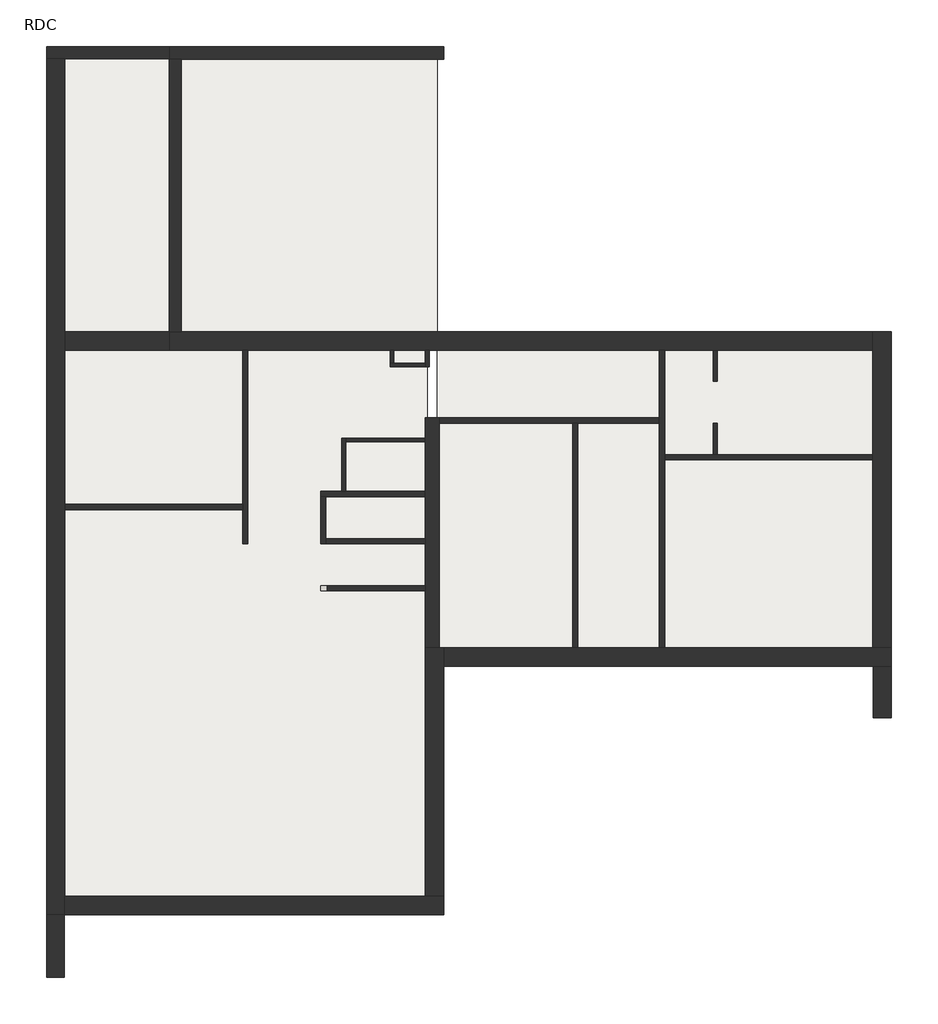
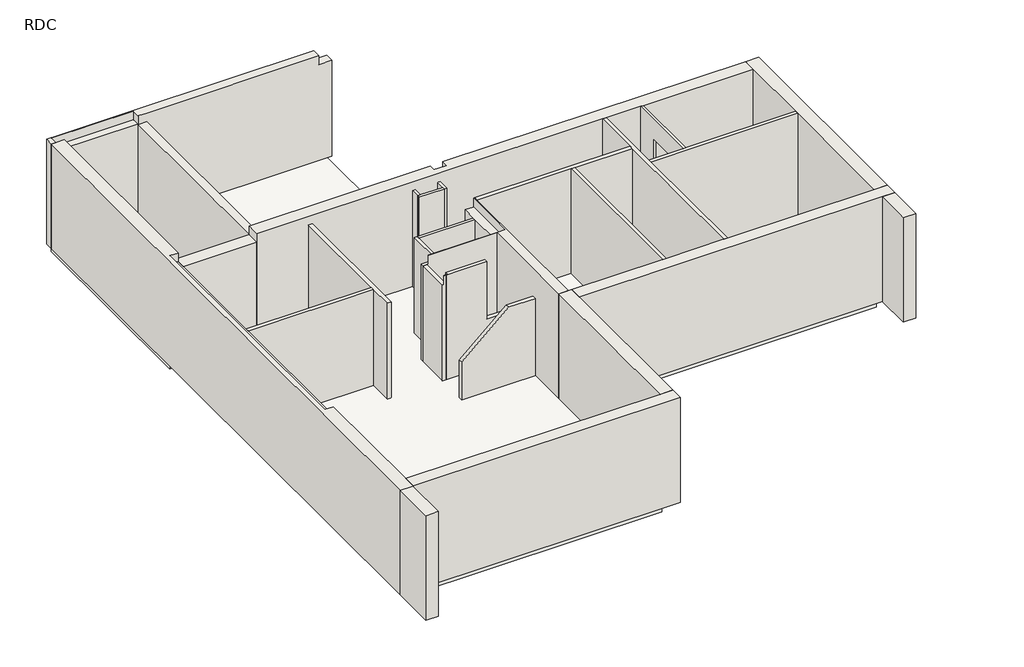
# One storey, incomplete: 29 walls, 2 slabs.
"""IFC4 building model written with IfcOpenShell, lengths in millimetres."""

from ifc_helpers import new_model, si_unit, frame, origin, origin_with_axes, place, context, project, spatial, polyline, outline, extrude, faceted_brep, element, save

model = new_model("IFC4")

# Units and contexts
model_context = context("Model", 3, world=origin())
ifc_project = project(units=[si_unit("LENGTHUNIT", "METRE", prefix="MILLI")], contexts=[model_context])

# Site, building, storey
site = spatial("IfcSite", under=ifc_project)
building = spatial("IfcBuilding", under=site)
storey = spatial("IfcBuildingStorey", under=building, Name="RDC", Elevation=0.0)

# Slabs
placement = place(None, origin())
element("IfcSlab", 1, ObjectType="Dalle en béton + Isolant", at=placement, inside=storey, context=model_context, shape_type="SweptSolid", body=[
    extrude(outline(polyline([(7863.302658, 2084.9574199), (7863.302658, -3665.0425801), (-486.697342, -3665.0425801), (-486.697342, 2084.9574199), (7863.302658, 2084.9574199)])), frame((0.0, 0.0, -360.0), z_axis=(0.0, 0.0, 1.0), x_axis=(1.0, 0.0, 0.0)), (0.0, 0.0, 1.0), 360.0),
    extrude(outline(polyline([(-7636.697342, -8415.0425801), (-7636.697342, 2084.9574199), (-686.697342, 2084.9574199), (-686.697342, -8415.0425801), (-7636.697342, -8415.0425801)])), frame((0.0, 0.0, -360.0), z_axis=(0.0, 0.0, 1.0), x_axis=(1.0, 0.0, 0.0)), (0.0, 0.0, 1.0), 360.0),
])
element("IfcSlab", 2, ObjectType="Dalle en béton", at=placement, inside=storey, context=model_context, shape_type="Brep", body=[
    faceted_brep([(-486.697342, 7834.9574199, -250.0), (-486.697342, 2284.9574199, -250.0), (-686.697342, 2284.9574199, -250.0), (-7636.697342, 2284.9574199, -250.0), (-7836.697342, 2284.9574199, -250.0), (-7836.697342, 7834.9574199, -250.0), (-7636.697342, 7834.9574199, -250.0), (-686.697342, 7834.9574199, -250.0), (-486.697342, 7834.9574199, 0.0), (-7836.697342, 7834.9574199, 0.0), (-7836.697342, 2284.9574199, 0.0), (-7636.697342, 2284.9574199, 0.0), (-686.697342, 2284.9574199, 0.0), (-486.697342, 2284.9574199, 0.0)], [[[0, 1, 2, 3, 4, 5, 6, 7]], [[8, 9, 10, 11, 12, 13]], [[1, 0, 8, 13]], [[4, 3, 2, 1, 13, 12, 11, 10]], [[5, 4, 10, 9]], [[0, 7, 6, 5, 9, 8]]]),
])

# Walls
element("IfcWall", 3, ObjectType="Ext. Bardage Métal + Isolant + Béton + Finition", at=placement, inside=storey, context=model_context, shape_type="Brep", body=[
    faceted_brep([(-7956.697342, 7624.9574199, 0.0), (-7956.697342, -8735.0425801, 0.0), (-7956.697342, -8735.0425801, 3000.0), (-7956.697342, 7624.9574199, 3000.0), (-7606.697342, -8735.0425801, 0.0), (-7606.697342, -8385.0425801, 0.0), (-7606.697342, -995.1038978, 0.0), (-7606.697342, -895.1038978, 0.0), (-7606.697342, 2054.9574199, 0.0), (-7606.697342, 2404.9574199, 0.0), (-7606.697342, 7624.9574199, 0.0), (-7606.697342, 7624.9574199, 3000.0), (-7606.697342, 2284.9574199, 3000.0), (-7606.697342, 2284.9574199, 2750.0), (-7606.697342, 2054.9574199, 2750.0), (-7606.697342, -895.1038978, 2750.0), (-7606.697342, -995.1038978, 2750.0), (-7606.697342, -4992.0425801, 2750.0), (-7606.697342, -4992.0425801, 3000.0), (-7606.697342, -8385.0425801, 3000.0), (-7606.697342, -8735.0425801, 3000.0), (-7616.697342, -8735.0425801, 0.0), (-7616.697342, -8735.0425801, 3000.0), (-7836.697342, -4992.0425801, 3000.0), (-7836.697342, 2284.9574199, 3000.0), (-7836.697342, 7624.9574199, 3000.0), (-7836.697342, 2284.9574199, 2750.0), (-7836.697342, -4992.0425801, 2750.0)], [[[0, 1, 2, 3]], [[4, 5, 6, 7, 8, 9, 10, 11, 12, 13, 14, 15, 16, 17, 18, 19, 20]], [[1, 0, 10, 9, 8, 7, 6, 5, 4, 21]], [[3, 2, 22, 20, 19, 18, 23, 24, 12, 11, 25]], [[26, 27, 17, 16, 15, 14, 13]], [[27, 26, 24, 23]], [[27, 23, 18, 17]], [[24, 26, 13, 12]], [[0, 3, 25, 11, 10]], [[2, 1, 21, 4, 20, 22]]]),
])
element("IfcWall", 4, ObjectType="Ext. Bardage Bois + Isolant + Béton + Finition", at=placement, inside=storey, context=model_context, shape_type="Brep", body=[
    faceted_brep([(-7606.697342, -8735.0425801, 0.0), (-366.697342, -8735.0425801, 0.0), (-366.697342, -8735.0425801, 3000.0), (-7606.697342, -8735.0425801, 3000.0), (-7606.697342, -8385.0425801, 0.0), (-7606.697342, -8385.0425801, 3000.0), (-716.697342, -8385.0425801, 3000.0), (-366.697342, -8385.0425801, 3000.0), (-366.697342, -8385.0425801, 0.0), (-716.697342, -8385.0425801, 0.0)], [[[0, 1, 2, 3]], [[4, 5, 6, 7, 8, 9]], [[1, 0, 4, 9, 8]], [[3, 2, 7, 6, 5]], [[2, 1, 8, 7]], [[0, 3, 5, 4]]]),
])
element("IfcWall", 5, ObjectType="Ext. Bardage Bois + Isolant + Béton + Finition", at=placement, inside=storey, context=model_context, shape_type="Brep", body=[
    faceted_brep([(-366.697342, -8385.0425801, 0.0), (-366.697342, -3985.0425801, 0.0), (-366.697342, -3635.0425801, 0.0), (-366.697342, -3635.0425801, 3000.0), (-366.697342, -3985.0425801, 3000.0), (-366.697342, -8385.0425801, 3000.0), (-716.697342, -8385.0425801, 0.0), (-716.697342, -8385.0425801, 3000.0), (-716.697342, -3635.0425801, 3000.0), (-716.697342, -3635.0425801, 0.0), (-456.697342, -3635.0425801, 0.0), (-456.697342, -3635.0425801, 3000.0)], [[[0, 1, 2, 3, 4, 5]], [[6, 7, 8, 9]], [[2, 1, 0, 6, 9, 10]], [[5, 4, 3, 11, 8, 7]], [[0, 5, 7, 6]], [[3, 2, 10, 9, 8, 11]]]),
])
element("IfcWall", 6, ObjectType="Ext. Bardage Métal + Isolant + Béton + Finition", at=placement, inside=storey, context=model_context, shape_type="Brep", body=[
    faceted_brep([(-366.697342, -3985.0425801, 0.0), (7843.302658, -3985.0425801, 0.0), (8183.302658, -3985.0425801, 0.0), (8183.302658, -3985.0425801, 3000.0), (7843.302658, -3985.0425801, 3000.0), (-366.697342, -3985.0425801, 3000.0), (-366.697342, -3635.0425801, 0.0), (-366.697342, -3635.0425801, 3000.0), (2094.302658, -3635.0425801, 3000.0), (2194.302658, -3635.0425801, 3000.0), (3754.302658, -3635.0425801, 3000.0), (3854.302658, -3635.0425801, 3000.0), (7833.302658, -3635.0425801, 3000.0), (8183.302658, -3635.0425801, 3000.0), (8183.302658, -3635.0425801, 0.0), (7833.302658, -3635.0425801, 0.0), (3854.302658, -3635.0425801, 0.0), (3754.302658, -3635.0425801, 0.0), (2194.302658, -3635.0425801, 0.0), (2094.302658, -3635.0425801, 0.0)], [[[0, 1, 2, 3, 4, 5]], [[6, 7, 8, 9, 10, 11, 12, 13, 14, 15, 16, 17, 18, 19]], [[2, 1, 0, 6, 19, 18, 17, 16, 15, 14]], [[5, 4, 3, 13, 12, 11, 10, 9, 8, 7]], [[0, 5, 7, 6]], [[3, 2, 14, 13]]]),
])
element("IfcWall", 7, ObjectType="Ext. Bardage Bois + Isolant + Béton + Finition", at=placement, inside=storey, context=model_context, shape_type="Brep", body=[
    faceted_brep([(8183.302658, -3635.0425801, 0.0), (8183.302658, 2404.9574199, 0.0), (8183.302658, 2404.9574199, 3000.0), (8183.302658, -3635.0425801, 3000.0), (7833.302658, -3635.0425801, 0.0), (7833.302658, -3635.0425801, 3000.0), (7833.302658, -40.1038978, 3000.0), (7833.302658, 59.8961022, 3000.0), (7833.302658, 2054.9574199, 3000.0), (7833.302658, 2404.9574199, 3000.0), (7833.302658, 2404.9574199, 0.0), (7833.302658, 2054.9574199, 0.0), (7833.302658, 59.8961022, 0.0), (7833.302658, -40.1038978, 0.0)], [[[0, 1, 2, 3]], [[4, 5, 6, 7, 8, 9, 10, 11, 12, 13]], [[1, 0, 4, 13, 12, 11, 10]], [[3, 2, 9, 8, 7, 6, 5]], [[0, 3, 5, 4]], [[2, 1, 10, 9]]]),
])
element("IfcWall", 8, ObjectType="Ext. Bardage Bois + Isolant + Béton + Finition", at=placement, inside=storey, context=model_context, shape_type="Brep", body=[
    faceted_brep([(7833.302658, 2404.9574199, 0.0), (-5386.5193778, 2404.9574199, 0.0), (-5616.5193778, 2404.9574199, 0.0), (-5616.5193778, 2404.9574199, 2750.0), (-5616.5193778, 2404.9574199, 3000.0), (-716.697342, 2404.9574199, 3000.0), (-716.697342, 2404.9574199, 2750.0), (-366.697342, 2404.9574199, 2750.0), (-366.697342, 2404.9574199, 3000.0), (7833.302658, 2404.9574199, 3000.0), (-5616.5193778, 2054.9574199, 0.0), (-4211.697342, 2054.9574199, 0.0), (-4111.697342, 2054.9574199, 0.0), (-1392.697342, 2054.9574199, 0.0), (-1320.697342, 2054.9574199, 0.0), (-716.697342, 2054.9574199, 0.0), (-644.697342, 2054.9574199, 0.0), (3754.302658, 2054.9574199, 0.0), (3854.302658, 2054.9574199, 0.0), (4784.302658, 2054.9574199, 0.0), (4856.302658, 2054.9574199, 0.0), (7833.302658, 2054.9574199, 0.0), (7833.302658, 2054.9574199, 3000.0), (4856.302658, 2054.9574199, 3000.0), (4784.302658, 2054.9574199, 3000.0), (3854.302658, 2054.9574199, 3000.0), (3754.302658, 2054.9574199, 3000.0), (-5616.5193778, 2054.9574199, 3000.0), (-5616.5193778, 2054.9574199, 2750.0), (-366.697342, 2229.9574199, 3000.0), (-716.697342, 2229.9574199, 3000.0), (-366.697342, 2229.9574199, 2750.0), (-716.697342, 2229.9574199, 2750.0), (-716.697342, 2284.9574199, 2750.0), (-486.697342, 2229.9574199, 2750.0)], [[[0, 1, 2, 3, 4, 5, 6, 7, 8, 9]], [[10, 11, 12, 13, 14, 15, 16, 17, 18, 19, 20, 21, 22, 23, 24, 25, 26, 27, 28]], [[2, 1, 0, 21, 20, 19, 18, 17, 16, 15, 14, 13, 12, 11, 10]], [[27, 26, 25, 24, 23, 22, 9, 8, 29, 30, 5, 4]], [[0, 9, 22, 21]], [[4, 3, 2, 10, 28, 27]], [[31, 29, 8, 7]], [[32, 33, 6, 5, 30]], [[32, 34, 31, 7, 6, 33]], [[31, 34, 32, 30, 29]]]),
])
element("IfcWall", 9, ObjectType="Int. Plâtre 100 mm", at=placement, inside=storey, context=model_context, shape_type="SweptSolid", body=[
    extrude(outline(polyline([(-4211.697342, -995.1038978), (-7606.697342, -995.1038978), (-7606.697342, -895.1038978), (-4211.697342, -895.1038978), (-4211.697342, -995.1038978)])), origin_with_axes(), (0.0, 0.0, 1.0), 2750.0),
])
element("IfcWall", 10, ObjectType="Int. Plâtre 100 mm", at=placement, inside=storey, context=model_context, shape_type="Brep", body=[
    faceted_brep([(-4111.697342, -1645.1038978, 0.0), (-4111.697342, 2054.9574199, 0.0), (-4111.697342, 2054.9574199, 2750.0), (-4111.697342, -1645.1038978, 2750.0), (-4211.697342, -1645.1038978, 0.0), (-4211.697342, -1645.1038978, 2750.0), (-4211.697342, -995.1038978, 2750.0), (-4211.697342, -895.1038978, 2750.0), (-4211.697342, 2054.9574199, 2750.0), (-4211.697342, 2054.9574199, 0.0), (-4211.697342, -895.1038978, 0.0), (-4211.697342, -995.1038978, 0.0)], [[[0, 1, 2, 3]], [[4, 5, 6, 7, 8, 9, 10, 11]], [[1, 0, 4, 11, 10, 9]], [[0, 3, 5, 4]], [[2, 1, 9, 8]], [[3, 2, 8, 7, 6, 5]]]),
])
element("IfcWall", 11, ObjectType="Int. Plâtre 100 mm", at=placement, inside=storey, context=model_context, shape_type="Brep", body=[
    faceted_brep([(-716.697342, -645.1038978, 0.0), (-2241.697342, -645.1038978, 0.0), (-2313.697342, -645.1038978, 0.0), (-2719.1256089, -645.1038978, 0.0), (-2719.1256089, -645.1038978, 2750.0), (-2313.697342, -645.1038978, 2750.0), (-2241.697342, -645.1038978, 2750.0), (-716.697342, -645.1038978, 2750.0), (-2719.1256089, -745.1038978, 0.0), (-2619.1256089, -745.1038978, 0.0), (-716.697342, -745.1038978, 0.0), (-716.697342, -745.1038978, 3000.0), (-2577.5004576, -745.1038978, 3000.0), (-2577.5004576, -745.1038978, 2750.0), (-2619.1256089, -745.1038978, 2750.0), (-2719.1256089, -745.1038978, 2750.0), (-716.697342, -732.1038978, 3000.0), (-2577.5004576, -732.1038978, 3000.0), (-716.697342, -732.1038978, 2750.0), (-2577.5004576, -732.1038978, 2750.0)], [[[0, 1, 2, 3, 4, 5, 6, 7]], [[8, 9, 10, 11, 12, 13, 14, 15]], [[3, 2, 1, 0, 10, 9, 8]], [[12, 11, 16, 17]], [[3, 8, 15, 4]], [[11, 10, 0, 7, 18, 16]], [[13, 19, 18, 7, 6, 5, 4, 15, 14]], [[19, 17, 16, 18]], [[17, 19, 13, 12]]]),
])
element("IfcWall", 12, ObjectType="Int. Plâtre 100 mm", at=placement, inside=storey, context=model_context, shape_type="Brep", body=[
    faceted_brep([(-2719.1256089, -745.1038978, 0.0), (-2719.1256089, -1645.1038978, 0.0), (-2719.1256089, -1645.1038978, 2750.0), (-2719.1256089, -745.1038978, 2750.0), (-2619.1256089, -1645.1038978, 0.0), (-2619.1256089, -1545.1038978, 0.0), (-2619.1256089, -745.1038978, 0.0), (-2619.1256089, -745.1038978, 2750.0), (-2619.1256089, -1545.1038978, 2750.0), (-2619.1256089, -1632.1038978, 2750.0), (-2619.1256089, -1632.1038978, 3000.0), (-2619.1256089, -1645.1038978, 3000.0), (-2682.3224934, -1632.1038978, 3000.0), (-2682.3224934, -1645.1038978, 3000.0), (-2682.3224934, -1645.1038978, 2750.0), (-2682.3224934, -1632.1038978, 2750.0)], [[[0, 1, 2, 3]], [[4, 5, 6, 7, 8, 9, 10, 11]], [[1, 0, 6, 5, 4]], [[11, 10, 12, 13]], [[6, 0, 3, 7]], [[14, 15, 9, 8, 7, 3, 2]], [[1, 4, 11, 13, 14, 2]], [[15, 12, 10, 9]], [[12, 15, 14, 13]]]),
])
element("IfcWall", 13, ObjectType="Int. Plâtre 100 mm", at=placement, inside=storey, context=model_context, shape_type="Brep", body=[
    faceted_brep([(-2619.1256089, -1645.1038978, 0.0), (-716.697342, -1645.1038978, 0.0), (-716.697342, -1645.1038978, 1360.0), (-1515.8753062, -1645.1038978, 1360.0), (-1515.8753062, -1645.1038978, 3000.0), (-2619.1256089, -1645.1038978, 3000.0), (-716.697342, -1545.1038978, 0.0), (-2619.1256089, -1545.1038978, 0.0), (-2619.1256089, -1545.1038978, 2750.0), (-2577.5004576, -1545.1038978, 2750.0), (-2577.5004576, -1545.1038978, 3000.0), (-1515.8753062, -1545.1038978, 3000.0), (-1515.8753062, -1545.1038978, 1360.0), (-716.697342, -1545.1038978, 1360.0), (-2577.5004576, -1632.1038978, 3000.0), (-2619.1256089, -1632.1038978, 3000.0), (-2619.1256089, -1632.1038978, 2750.0), (-2577.5004576, -1632.1038978, 2750.0)], [[[0, 1, 2, 3, 4, 5]], [[6, 7, 8, 9, 10, 11, 12, 13]], [[2, 1, 6, 13]], [[1, 0, 7, 6]], [[5, 4, 11, 10, 14, 15]], [[3, 2, 13, 12]], [[4, 3, 12, 11]], [[7, 0, 5, 15, 16, 8]], [[16, 17, 9, 8]], [[17, 14, 10, 9]], [[14, 17, 16, 15]]]),
])
element("IfcWall", 14, ObjectType="Int. Plâtre 100 mm", at=placement, inside=storey, context=model_context, shape_type="Brep", body=[
    faceted_brep([(-456.697342, 657.8961022, 0.0), (2094.302658, 657.8961022, 0.0), (2194.302658, 657.8961022, 0.0), (3754.302658, 657.8961022, 0.0), (3754.302658, 657.8961022, 3000.0), (2194.302658, 657.8961022, 3000.0), (2094.302658, 657.8961022, 3000.0), (-456.697342, 657.8961022, 3000.0), (-456.697342, 757.8961022, 0.0), (-456.697342, 757.8961022, 3000.0), (3754.302658, 757.8961022, 3000.0), (3754.302658, 757.8961022, 0.0)], [[[0, 1, 2, 3, 4, 5, 6, 7]], [[8, 9, 10, 11]], [[3, 2, 1, 0, 8, 11]], [[7, 6, 5, 4, 10, 9]], [[4, 3, 11, 10]], [[0, 7, 9, 8]]]),
])
element("IfcWall", 15, ObjectType="Int. Plâtre 100 mm", at=placement, inside=storey, context=model_context, shape_type="Brep", body=[
    faceted_brep([(3754.302658, 2054.9574199, 0.0), (3754.302658, 757.8961022, 0.0), (3754.302658, 657.8961022, 0.0), (3754.302658, -3635.0425801, 0.0), (3754.302658, -3635.0425801, 35.0), (3754.302658, -3635.0425801, 2485.0), (3754.302658, -3635.0425801, 3000.0), (3754.302658, 657.8961022, 3000.0), (3754.302658, 757.8961022, 3000.0), (3754.302658, 2054.9574199, 3000.0), (3854.302658, 2054.9574199, 0.0), (3854.302658, 2054.9574199, 3000.0), (3854.302658, 59.8961022, 3000.0), (3854.302658, -40.1038978, 3000.0), (3854.302658, -3635.0425801, 3000.0), (3854.302658, -3635.0425801, 0.0), (3854.302658, -40.1038978, 0.0), (3854.302658, 59.8961022, 0.0)], [[[0, 1, 2, 3, 4, 5, 6, 7, 8, 9]], [[10, 11, 12, 13, 14, 15, 16, 17]], [[3, 2, 1, 0, 10, 17, 16, 15]], [[9, 8, 7, 6, 14, 13, 12, 11]], [[6, 5, 4, 3, 15, 14]], [[0, 9, 11, 10]]]),
])
element("IfcWall", 16, ObjectType="Int. Plâtre 100 mm", at=placement, inside=storey, context=model_context, shape_type="Brep", body=[
    faceted_brep([(7833.302658, 59.8961022, 0.0), (4856.302658, 59.8961022, 0.0), (4784.302658, 59.8961022, 0.0), (3854.302658, 59.8961022, 0.0), (3854.302658, 59.8961022, 3000.0), (4784.302658, 59.8961022, 3000.0), (4856.302658, 59.8961022, 3000.0), (7833.302658, 59.8961022, 3000.0), (7833.302658, -40.1038978, 0.0), (7833.302658, -40.1038978, 3000.0), (3854.302658, -40.1038978, 3000.0), (3854.302658, -40.1038978, 0.0)], [[[0, 1, 2, 3, 4, 5, 6, 7]], [[8, 9, 10, 11]], [[3, 2, 1, 0, 8, 11]], [[7, 6, 5, 4, 10, 9]], [[0, 7, 9, 8]], [[4, 3, 11, 10]]]),
])
element("IfcWall", 17, ObjectType="Int. Plâtre 100 mm", at=placement, inside=storey, context=model_context, shape_type="SweptSolid", body=[
    extrude(outline(polyline([(2094.302658, -3635.0425801), (2094.302658, 657.8961022), (2194.302658, 657.8961022), (2194.302658, -3635.0425801), (2094.302658, -3635.0425801)])), origin_with_axes(), (0.0, 0.0, 1.0), 3000.0),
])
element("IfcWall", 18, ObjectType="Int. Plâtre 70 mm", at=placement, inside=storey, context=model_context, shape_type="Brep", body=[
    faceted_brep([(-2241.697342, -645.1038978, 0.0), (-2241.697342, 299.8961022, 0.0), (-2241.697342, 371.8961022, 0.0), (-2241.697342, 371.8961022, 2750.0), (-2241.697342, 299.8961022, 2750.0), (-2241.697342, -645.1038978, 2750.0), (-2313.697342, -645.1038978, 0.0), (-2313.697342, -645.1038978, 2750.0), (-2313.697342, 371.8961022, 2750.0), (-2313.697342, 371.8961022, 0.0)], [[[0, 1, 2, 3, 4, 5]], [[6, 7, 8, 9]], [[2, 1, 0, 6, 9]], [[0, 5, 7, 6]], [[3, 2, 9, 8]], [[5, 4, 3, 8, 7]]]),
])
element("IfcWall", 19, ObjectType="Int. Plâtre 70 mm", at=placement, inside=storey, context=model_context, shape_type="SweptSolid", body=[
    extrude(outline(polyline([(-716.697342, 299.8961022), (-2241.697342, 299.8961022), (-2241.697342, 371.8961022), (-716.697342, 371.8961022), (-716.697342, 299.8961022)])), origin_with_axes(), (0.0, 0.0, 1.0), 2750.0),
])
element("IfcWall", 20, ObjectType="Int. Plâtre 70 mm", at=placement, inside=storey, context=model_context, shape_type="SweptSolid", body=[
    extrude(outline(polyline([(59.8961022, 0.0), (59.8961022, 3000.0), (2054.9574199, 3000.0), (2054.9574199, 0.0), (1463.4416882, 0.0), (1463.4416882, 2438.4), (659.8961022, 2438.4), (659.8961022, 0.0), (59.8961022, 0.0)])), frame((4784.302658, 0.0, 0.0), z_axis=(1.0, 0.0, 0.0), x_axis=(0.0, 1.0, 0.0)), (0.0, 0.0, 1.0), 72.0),
])
element("IfcWall", 21, ObjectType="Int. Béton + Finition", at=placement, inside=storey, context=model_context, shape_type="Brep", body=[
    faceted_brep([(-716.697342, 757.8961022, 0.0), (-716.697342, 371.8961022, 0.0), (-716.697342, 299.8961022, 0.0), (-716.697342, -645.1038978, 0.0), (-716.697342, -745.1038978, 0.0), (-716.697342, -1545.1038978, 0.0), (-716.697342, -1645.1038978, 0.0), (-716.697342, -2445.1038978, 0.0), (-716.697342, -2545.1038978, 0.0), (-716.697342, -3635.0425801, 0.0), (-716.697342, -3635.0425801, 3000.0), (-716.697342, -745.1038978, 3000.0), (-716.697342, -732.1038978, 3000.0), (-716.697342, -732.1038978, 2750.0), (-716.697342, -645.1038978, 2750.0), (-716.697342, 299.8961022, 2750.0), (-716.697342, 371.8961022, 2750.0), (-716.697342, 757.8961022, 2750.0), (-456.697342, -3635.0425801, 0.0), (-456.697342, 657.8961022, 0.0), (-456.697342, 757.8961022, 0.0), (-456.697342, 757.8961022, 3000.0), (-456.697342, 657.8961022, 3000.0), (-456.697342, -3635.0425801, 3000.0), (-486.697342, 757.8961022, 3000.0), (-486.697342, -732.1038978, 3000.0), (-486.697342, 757.8961022, 2750.0), (-486.697342, -732.1038978, 2750.0)], [[[0, 1, 2, 3, 4, 5, 6, 7, 8, 9, 10, 11, 12, 13, 14, 15, 16, 17]], [[18, 19, 20, 21, 22, 23]], [[9, 8, 7, 6, 5, 4, 3, 2, 1, 0, 20, 19, 18]], [[23, 22, 21, 24, 25, 12, 11, 10]], [[21, 20, 0, 17, 26, 24]], [[10, 9, 18, 23]], [[13, 27, 26, 17, 16, 15, 14]], [[27, 25, 24, 26]], [[25, 27, 13, 12]]]),
])
element("IfcWall", 22, ObjectType="Int. Plâtre 70 mm", at=placement, inside=storey, context=model_context, shape_type="Brep", body=[
    faceted_brep([(-716.697342, 2054.9574199, 0.0), (-716.697342, 1807.8961022, 0.0), (-716.697342, 1735.8961022, 0.0), (-716.697342, 1735.8961022, 2750.0), (-716.697342, 1807.8961022, 2750.0), (-716.697342, 2054.9574199, 2750.0), (-644.697342, 2054.9574199, 0.0), (-644.697342, 2054.9574199, 2750.0), (-644.697342, 1735.8961022, 2750.0), (-644.697342, 1735.8961022, 0.0)], [[[0, 1, 2, 3, 4, 5]], [[6, 7, 8, 9]], [[2, 1, 0, 6, 9]], [[0, 5, 7, 6]], [[3, 2, 9, 8]], [[5, 4, 3, 8, 7]]]),
])
element("IfcWall", 23, ObjectType="Int. Plâtre 70 mm", at=placement, inside=storey, context=model_context, shape_type="Brep", body=[
    faceted_brep([(-716.697342, 1807.8961022, 0.0), (-1320.697342, 1807.8961022, 0.0), (-1392.697342, 1807.8961022, 0.0), (-1392.697342, 1807.8961022, 2750.0), (-1320.697342, 1807.8961022, 2750.0), (-716.697342, 1807.8961022, 2750.0), (-716.697342, 1735.8961022, 0.0), (-716.697342, 1735.8961022, 2750.0), (-1392.697342, 1735.8961022, 2750.0), (-1392.697342, 1735.8961022, 0.0)], [[[0, 1, 2, 3, 4, 5]], [[6, 7, 8, 9]], [[2, 1, 0, 6, 9]], [[0, 5, 7, 6]], [[3, 2, 9, 8]], [[5, 4, 3, 8, 7]]]),
])
element("IfcWall", 24, ObjectType="Int. Plâtre 70 mm", at=placement, inside=storey, context=model_context, shape_type="SweptSolid", body=[
    extrude(outline(polyline([(-1320.697342, 2054.9574199), (-1320.697342, 1807.8961022), (-1392.697342, 1807.8961022), (-1392.697342, 2054.9574199), (-1320.697342, 2054.9574199)])), origin_with_axes(), (0.0, 0.0, 1.0), 2750.0),
])
element("IfcWall", 25, ObjectType="Ext. Bardage Métal + Béton + Finition", at=placement, inside=storey, context=model_context, shape_type="SweptSolid", body=[
    extrude(outline(polyline([(-5616.5193778, 2404.9574199), (-5616.5193778, 7614.9574199), (-5386.5193778, 7614.9574199), (-5386.5193778, 2404.9574199), (-5616.5193778, 2404.9574199)])), origin_with_axes(), (0.0, 0.0, 1.0), 2750.0),
])
element("IfcWall", 26, ObjectType="Ext. Bardage Bois +  Béton + Bardage Métal", at=placement, inside=storey, context=model_context, shape_type="Brep", body=[
    faceted_brep([(-5616.5193778, 7614.9574199, 0.0), (-5386.5193778, 7614.9574199, 0.0), (-366.697342, 7614.9574199, 0.0), (-366.697342, 7614.9574199, 2750.0), (-716.697342, 7614.9574199, 2750.0), (-716.697342, 7614.9574199, 3000.0), (-5386.5193778, 7614.9574199, 3000.0), (-5616.5193778, 7614.9574199, 3000.0), (-366.697342, 7854.9574199, 0.0), (-5616.5193778, 7854.9574199, 0.0), (-5616.5193778, 7854.9574199, 3000.0), (-716.697342, 7854.9574199, 3000.0), (-716.697342, 7854.9574199, 2750.0), (-366.697342, 7854.9574199, 2750.0), (-5616.5193778, 7624.9574199, 0.0), (-5616.5193778, 7624.9574199, 3000.0), (-716.697342, 7624.9574199, 3000.0)], [[[0, 1, 2, 3, 4, 5, 6, 7]], [[8, 9, 10, 11, 12, 13]], [[2, 1, 0, 14, 9, 8]], [[2, 8, 13, 3]], [[10, 15, 7, 6, 5, 16, 11]], [[0, 7, 15, 10, 9, 14]], [[4, 12, 11, 16, 5]], [[12, 4, 3, 13]]]),
])
element("IfcWall", 27, ObjectType="Int. Plâtre 100 mm", at=placement, inside=storey, context=model_context, shape_type="SweptSolid", body=[
    extrude(outline(polyline([(0.0, -716.697342), (2212.5, -716.697342), (2212.5, -1446.8453117), (1087.5, -2719.1256089), (0.0, -2719.1256089), (0.0, -716.697342)])), frame((0.0, -2545.1038978, 0.0), z_axis=(0.0, 1.0, 0.0), x_axis=(0.0, 0.0, 1.0)), (0.0, 0.0, 1.0), 100.0),
])
element("IfcWall", 28, ObjectType="Ext. Bardage Bois + Béton + Finition", at=placement, inside=storey, context=model_context, shape_type="Brep", body=[
    faceted_brep([(-7956.697342, 7624.9574199, 0.0), (-7606.697342, 7624.9574199, 0.0), (-5616.5193778, 7624.9574199, 0.0), (-5616.5193778, 7624.9574199, 2750.0), (-7836.697342, 7624.9574199, 2750.0), (-7836.697342, 7624.9574199, 3000.0), (-7956.697342, 7624.9574199, 3000.0), (-5616.5193778, 7854.9574199, 0.0), (-7956.697342, 7854.9574199, 0.0), (-7956.697342, 7854.9574199, 3000.0), (-7606.697342, 7854.9574199, 3000.0), (-5616.5193778, 7854.9574199, 3000.0), (-7836.697342, 7834.9574199, 3000.0), (-5616.5193778, 7834.9574199, 3000.0), (-5616.5193778, 7834.9574199, 2750.0), (-7836.697342, 7834.9574199, 2750.0)], [[[0, 1, 2, 3, 4, 5, 6]], [[7, 8, 9, 10, 11]], [[2, 1, 0, 8, 7]], [[11, 10, 9, 6, 5, 12, 13]], [[0, 6, 9, 8]], [[2, 7, 11, 13, 14, 3]], [[14, 15, 4, 3]], [[15, 12, 5, 4]], [[12, 15, 14, 13]]]),
])
element("IfcWall", 29, ObjectType="Ext. Bardage Métal + Isolant + Béton + Bardage Bois", at=placement, inside=storey, context=model_context, shape_type="SweptSolid", body=[
    extrude(outline(polyline([(-7956.697342, -9932.1038978), (-7956.697342, -8735.0425801), (-7616.697342, -8735.0425801), (-7616.697342, -9932.1038978), (-7956.697342, -9932.1038978)])), origin_with_axes(), (0.0, 0.0, 1.0), 3000.0),
])
element("IfcWall", 30, ObjectType="Ext. Bardage Bois + Isolant + Béton + Bardage Métal", at=placement, inside=storey, context=model_context, shape_type="SweptSolid", body=[
    extrude(outline(polyline([(7843.302658, -4967.1038978), (7843.302658, -3985.0425801), (8183.302658, -3985.0425801), (8183.302658, -4967.1038978), (7843.302658, -4967.1038978)])), origin_with_axes(), (0.0, 0.0, 1.0), 3000.0),
])
element("IfcWall", 31, ObjectType="Int. Finition + Isolant + Béton + Finition", at=placement, inside=storey, context=model_context, shape_type="Brep", body=[
    faceted_brep([(-5616.5193778, 2404.9574199, 0.0), (-7606.697342, 2404.9574199, 0.0), (-7606.697342, 2404.9574199, 2750.0), (-5616.5193778, 2404.9574199, 2750.0), (-7606.697342, 2054.9574199, 0.0), (-5616.5193778, 2054.9574199, 0.0), (-5616.5193778, 2054.9574199, 2750.0), (-7606.697342, 2054.9574199, 2750.0), (-7606.697342, 2284.9574199, 2750.0)], [[[0, 1, 2, 3]], [[4, 5, 6, 7]], [[1, 0, 5, 4]], [[1, 4, 7, 8, 2]], [[5, 0, 3, 6]], [[7, 6, 3, 2, 8]]]),
])

save(model, "model.ifc")
